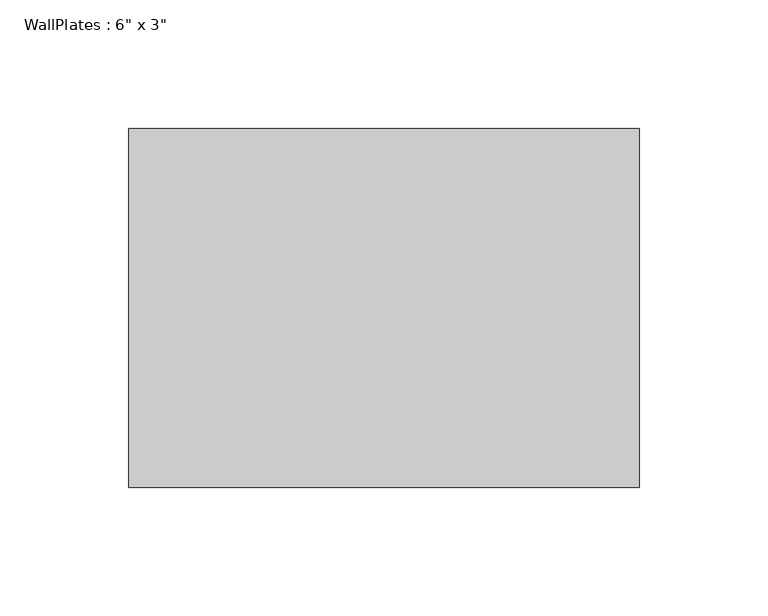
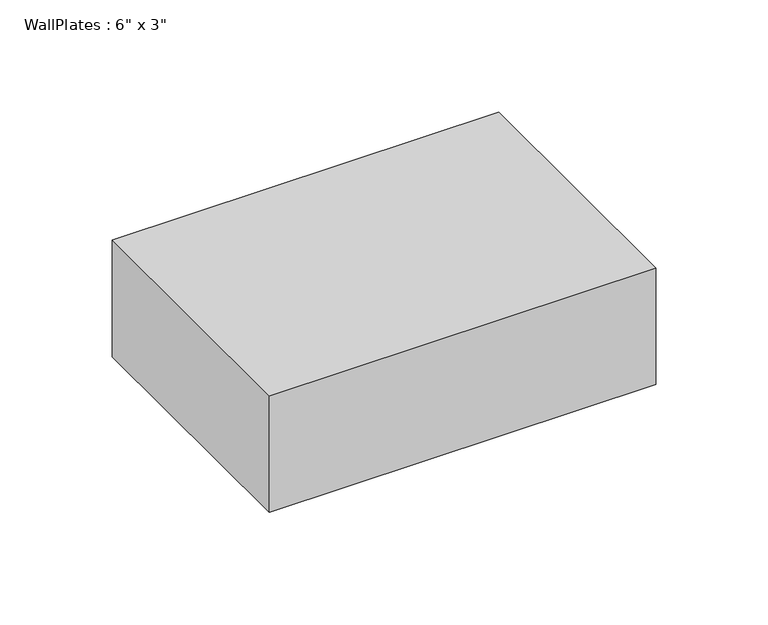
"""IFC4 building model written with IfcOpenShell, lengths in millimetres: beam geometry."""

from ifc_helpers import new_model, si_unit, frame, origin, place, context, project, spatial, polyline, outline, extrude, source, transform, mapped, element, save


def beam_24b50243(model_context):
    return source(origin(), model_context, "Body", "SweptSolid", [
        extrude(outline(polyline([(-99.3775, -69.85), (-99.3775, 69.85), (99.3775, 69.85), (99.3775, -69.85), (-99.3775, -69.85)])), frame((0.0, 0.0, -31.75), z_axis=(0.0, 0.0, 1.0), x_axis=(1.0, 0.0, 0.0)), (0.0, 0.0, 1.0), 63.5),
    ])


if __name__ == "__main__":
    model = new_model("IFC4")
    model_context = context("Model", 3, world=origin())
    ifc_project = project(units=[si_unit("LENGTHUNIT", "METRE", prefix="MILLI")], contexts=[model_context])
    site = spatial("IfcSite", under=ifc_project)
    building = spatial("IfcBuilding", under=site)
    placement = place(None, origin())
    beam_shape = beam_24b50243(model_context)
    element("IfcBeam", 1, ObjectType="WallPlates : 6\" x 3\"", at=placement, inside=building, context=model_context, shape_type="MappedRepresentation", body=[
        mapped(beam_shape, transform((0.0, 0.0, 0.0), x_axis=(1.0, 0.0, 0.0), y_axis=(0.0, 1.0, 0.0), z_axis=(0.0, 0.0, 1.0))),
    ])
    save(model, "model.ifc")
